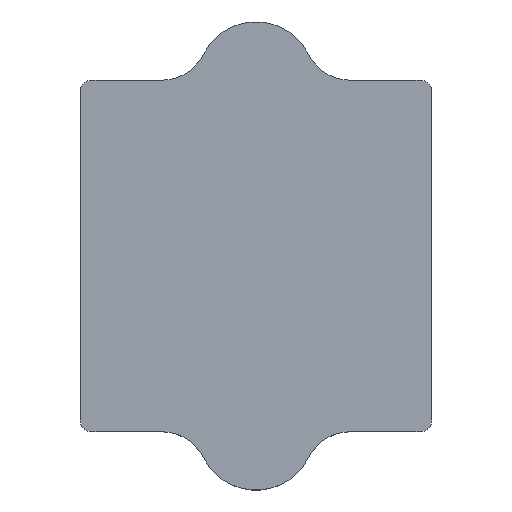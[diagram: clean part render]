
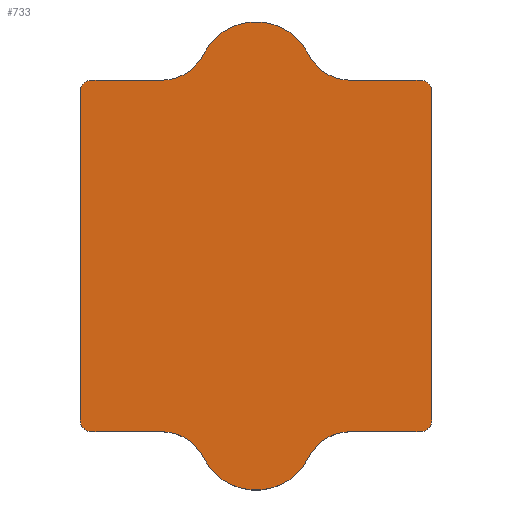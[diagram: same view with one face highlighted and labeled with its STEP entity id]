
A CAD part, top view. The second image highlights one B-rep face of the part: STEP entity #733.
In plain terms, the highlighted planar face has unit normal (0, 0, 1).
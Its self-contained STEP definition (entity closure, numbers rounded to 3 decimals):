
#7 = AXIS2_PLACEMENT_3D ( 'NONE', #474, #1054, #801 ) ;
#15 = ORIENTED_EDGE ( 'NONE', *, *, #721, .T. ) ;
#17 = CARTESIAN_POINT ( 'NONE',  ( 0., -14.986, 10. ) ) ;
#29 = VERTEX_POINT ( 'NONE', #769 ) ;
#31 = EDGE_CURVE ( 'NONE', #483, #406, #377, .T. ) ;
#35 = CIRCLE ( 'NONE', #756, 1. ) ;
#62 = DIRECTION ( 'NONE',  ( 1., 0., 0. ) ) ;
#87 = CARTESIAN_POINT ( 'NONE',  ( 15., -15., 10. ) ) ;
#100 = ORIENTED_EDGE ( 'NONE', *, *, #442, .T. ) ;
#105 = ORIENTED_EDGE ( 'NONE', *, *, #505, .T. ) ;
#106 = CIRCLE ( 'NONE', #809, 1. ) ;
#107 = LINE ( 'NONE', #492, #912 ) ;
#109 = VERTEX_POINT ( 'NONE', #694 ) ;
#115 = VERTEX_POINT ( 'NONE', #950 ) ;
#119 = DIRECTION ( 'NONE',  ( 0., 0., 1. ) ) ;
#124 = ORIENTED_EDGE ( 'NONE', *, *, #819, .T. ) ;
#145 = EDGE_CURVE ( 'NONE', #352, #483, #35, .T. ) ;
#147 = DIRECTION ( 'NONE',  ( 1., 0., 0. ) ) ;
#156 = AXIS2_PLACEMENT_3D ( 'NONE', #627, #860, #205 ) ;
#162 = DIRECTION ( 'NONE',  ( 0., 0., 1. ) ) ;
#163 = DIRECTION ( 'NONE',  ( 1., 0., 0. ) ) ;
#178 = ORIENTED_EDGE ( 'NONE', *, *, #287, .T. ) ;
#188 = VERTEX_POINT ( 'NONE', #880 ) ;
#194 = VECTOR ( 'NONE', #280, 1000. ) ;
#196 = VECTOR ( 'NONE', #639, 1000. ) ;
#205 = DIRECTION ( 'NONE',  ( 1., 0., 0. ) ) ;
#213 = CIRCLE ( 'NONE', #844, 5. ) ;
#217 = VERTEX_POINT ( 'NONE', #586 ) ;
#226 = DIRECTION ( 'NONE',  ( 1., 0., 0. ) ) ;
#238 = DIRECTION ( 'NONE',  ( 0., 0., -1. ) ) ;
#239 = VERTEX_POINT ( 'NONE', #937 ) ;
#250 = CARTESIAN_POINT ( 'NONE',  ( 15., 15., 10. ) ) ;
#257 = CARTESIAN_POINT ( 'NONE',  ( 0., 14.986, 10. ) ) ;
#276 = ORIENTED_EDGE ( 'NONE', *, *, #1029, .T. ) ;
#280 = DIRECTION ( 'NONE',  ( 0., -1., 0. ) ) ;
#282 = EDGE_LOOP ( 'NONE', ( #124, #100, #559, #178, #788, #755, #822, #15, #688, #634, #761, #276, #105, #345, #833, #376 ) ) ;
#287 = EDGE_CURVE ( 'NONE', #188, #703, #554, .T. ) ;
#291 = CARTESIAN_POINT ( 'NONE',  ( 8.055, -15., 10. ) ) ;
#296 = CIRCLE ( 'NONE', #893, 1. ) ;
#313 = CIRCLE ( 'NONE', #7, 4. ) ;
#318 = CARTESIAN_POINT ( 'NONE',  ( 15., -15., 10. ) ) ;
#320 = EDGE_CURVE ( 'NONE', #115, #654, #528, .T. ) ;
#326 = VECTOR ( 'NONE', #1021, 1000. ) ;
#345 = ORIENTED_EDGE ( 'NONE', *, *, #145, .T. ) ;
#347 = DIRECTION ( 'NONE',  ( 0., 0., 1. ) ) ;
#351 = PLANE ( 'NONE',  #156 ) ;
#352 = VERTEX_POINT ( 'NONE', #462 ) ;
#362 = EDGE_CURVE ( 'NONE', #493, #188, #704, .T. ) ;
#363 = DIRECTION ( 'NONE',  ( 0., 0., 1. ) ) ;
#376 = ORIENTED_EDGE ( 'NONE', *, *, #798, .T. ) ;
#377 = LINE ( 'NONE', #535, #194 ) ;
#406 = VERTEX_POINT ( 'NONE', #804 ) ;
#414 = AXIS2_PLACEMENT_3D ( 'NONE', #17, #162, #562 ) ;
#416 = VERTEX_POINT ( 'NONE', #881 ) ;
#430 = DIRECTION ( 'NONE',  ( 1., 0., 0. ) ) ;
#433 = DIRECTION ( 'NONE',  ( 1., 0., 0. ) ) ;
#438 = DIRECTION ( 'NONE',  ( 0., 0., 1. ) ) ;
#440 = CIRCLE ( 'NONE', #767, 4. ) ;
#441 = CIRCLE ( 'NONE', #751, 4. ) ;
#442 = EDGE_CURVE ( 'NONE', #837, #493, #313, .T. ) ;
#462 = CARTESIAN_POINT ( 'NONE',  ( -14., 15., 10. ) ) ;
#474 = CARTESIAN_POINT ( 'NONE',  ( -8.055, -19., 10. ) ) ;
#483 = VERTEX_POINT ( 'NONE', #917 ) ;
#487 = DIRECTION ( 'NONE',  ( 0., 0., -1. ) ) ;
#492 = CARTESIAN_POINT ( 'NONE',  ( 15., 15., 10. ) ) ;
#493 = VERTEX_POINT ( 'NONE', #607 ) ;
#503 = CARTESIAN_POINT ( 'NONE',  ( -8.055, 15., 10. ) ) ;
#505 = EDGE_CURVE ( 'NONE', #513, #352, #107, .T. ) ;
#513 = VERTEX_POINT ( 'NONE', #503 ) ;
#520 = CARTESIAN_POINT ( 'NONE',  ( 8.055, -19., 10. ) ) ;
#528 = LINE ( 'NONE', #1049, #326 ) ;
#533 = CARTESIAN_POINT ( 'NONE',  ( 4.475, 17.216, 10. ) ) ;
#535 = CARTESIAN_POINT ( 'NONE',  ( -15., -15., 10. ) ) ;
#549 = CARTESIAN_POINT ( 'NONE',  ( -8.055, 19., 10. ) ) ;
#554 = CIRCLE ( 'NONE', #726, 4. ) ;
#555 = VECTOR ( 'NONE', #582, 1000. ) ;
#558 = LINE ( 'NONE', #87, #196 ) ;
#559 = ORIENTED_EDGE ( 'NONE', *, *, #362, .T. ) ;
#562 = DIRECTION ( 'NONE',  ( -1., 0., 0. ) ) ;
#579 = EDGE_CURVE ( 'NONE', #918, #416, #213, .T. ) ;
#582 = DIRECTION ( 'NONE',  ( -1., 0., 0. ) ) ;
#586 = CARTESIAN_POINT ( 'NONE',  ( 8.055, 15., 10. ) ) ;
#589 = DIRECTION ( 'NONE',  ( -1., 0., 0. ) ) ;
#596 = EDGE_CURVE ( 'NONE', #109, #115, #106, .T. ) ;
#607 = CARTESIAN_POINT ( 'NONE',  ( -4.475, -17.216, 10. ) ) ;
#616 = DIRECTION ( 'NONE',  ( 1., 0., 0. ) ) ;
#627 = CARTESIAN_POINT ( 'NONE',  ( 0., 0., 10. ) ) ;
#630 = EDGE_CURVE ( 'NONE', #29, #217, #984, .T. ) ;
#634 = ORIENTED_EDGE ( 'NONE', *, *, #939, .T. ) ;
#639 = DIRECTION ( 'NONE',  ( 1., 0., 0. ) ) ;
#647 = LINE ( 'NONE', #318, #681 ) ;
#654 = VERTEX_POINT ( 'NONE', #753 ) ;
#681 = VECTOR ( 'NONE', #163, 1000. ) ;
#688 = ORIENTED_EDGE ( 'NONE', *, *, #630, .T. ) ;
#694 = CARTESIAN_POINT ( 'NONE',  ( 14., -15., 10. ) ) ;
#703 = VERTEX_POINT ( 'NONE', #291 ) ;
#704 = CIRCLE ( 'NONE', #414, 5. ) ;
#721 = EDGE_CURVE ( 'NONE', #654, #29, #1043, .T. ) ;
#726 = AXIS2_PLACEMENT_3D ( 'NONE', #520, #864, #616 ) ;
#733 = ADVANCED_FACE ( 'NONE', ( #1016 ), #351, .T. ) ;
#751 = AXIS2_PLACEMENT_3D ( 'NONE', #549, #487, #812 ) ;
#753 = CARTESIAN_POINT ( 'NONE',  ( 15., 14., 10. ) ) ;
#755 = ORIENTED_EDGE ( 'NONE', *, *, #596, .T. ) ;
#756 = AXIS2_PLACEMENT_3D ( 'NONE', #1032, #856, #147 ) ;
#761 = ORIENTED_EDGE ( 'NONE', *, *, #579, .T. ) ;
#767 = AXIS2_PLACEMENT_3D ( 'NONE', #802, #238, #226 ) ;
#769 = CARTESIAN_POINT ( 'NONE',  ( 14., 15., 10. ) ) ;
#788 = ORIENTED_EDGE ( 'NONE', *, *, #981, .T. ) ;
#798 = EDGE_CURVE ( 'NONE', #406, #239, #296, .T. ) ;
#801 = DIRECTION ( 'NONE',  ( 1., 0., 0. ) ) ;
#802 = CARTESIAN_POINT ( 'NONE',  ( 8.055, 19., 10. ) ) ;
#804 = CARTESIAN_POINT ( 'NONE',  ( -15., -14., 10. ) ) ;
#809 = AXIS2_PLACEMENT_3D ( 'NONE', #991, #347, #836 ) ;
#812 = DIRECTION ( 'NONE',  ( 1., 0., 0. ) ) ;
#819 = EDGE_CURVE ( 'NONE', #239, #837, #558, .T. ) ;
#822 = ORIENTED_EDGE ( 'NONE', *, *, #320, .T. ) ;
#833 = ORIENTED_EDGE ( 'NONE', *, *, #31, .T. ) ;
#836 = DIRECTION ( 'NONE',  ( 1., 0., 0. ) ) ;
#837 = VERTEX_POINT ( 'NONE', #865 ) ;
#844 = AXIS2_PLACEMENT_3D ( 'NONE', #257, #119, #433 ) ;
#848 = CARTESIAN_POINT ( 'NONE',  ( -14., -14., 10. ) ) ;
#856 = DIRECTION ( 'NONE',  ( 0., 0., 1. ) ) ;
#860 = DIRECTION ( 'NONE',  ( 0., 0., 1. ) ) ;
#864 = DIRECTION ( 'NONE',  ( 0., 0., -1. ) ) ;
#865 = CARTESIAN_POINT ( 'NONE',  ( -8.055, -15., 10. ) ) ;
#880 = CARTESIAN_POINT ( 'NONE',  ( 4.475, -17.216, 10. ) ) ;
#881 = CARTESIAN_POINT ( 'NONE',  ( -4.475, 17.216, 10. ) ) ;
#893 = AXIS2_PLACEMENT_3D ( 'NONE', #848, #438, #62 ) ;
#912 = VECTOR ( 'NONE', #589, 1000. ) ;
#917 = CARTESIAN_POINT ( 'NONE',  ( -15., 14., 10. ) ) ;
#918 = VERTEX_POINT ( 'NONE', #533 ) ;
#926 = CARTESIAN_POINT ( 'NONE',  ( 14., 14., 10. ) ) ;
#937 = CARTESIAN_POINT ( 'NONE',  ( -14., -15., 10. ) ) ;
#939 = EDGE_CURVE ( 'NONE', #217, #918, #440, .T. ) ;
#950 = CARTESIAN_POINT ( 'NONE',  ( 15., -14., 10. ) ) ;
#955 = AXIS2_PLACEMENT_3D ( 'NONE', #926, #363, #430 ) ;
#981 = EDGE_CURVE ( 'NONE', #703, #109, #647, .T. ) ;
#984 = LINE ( 'NONE', #250, #555 ) ;
#991 = CARTESIAN_POINT ( 'NONE',  ( 14., -14., 10. ) ) ;
#1016 = FACE_OUTER_BOUND ( 'NONE', #282, .T. ) ;
#1021 = DIRECTION ( 'NONE',  ( 0., 1., 0. ) ) ;
#1029 = EDGE_CURVE ( 'NONE', #416, #513, #441, .T. ) ;
#1032 = CARTESIAN_POINT ( 'NONE',  ( -14., 14., 10. ) ) ;
#1043 = CIRCLE ( 'NONE', #955, 1. ) ;
#1049 = CARTESIAN_POINT ( 'NONE',  ( 15., -15., 10. ) ) ;
#1054 = DIRECTION ( 'NONE',  ( 0., 0., -1. ) ) ;
